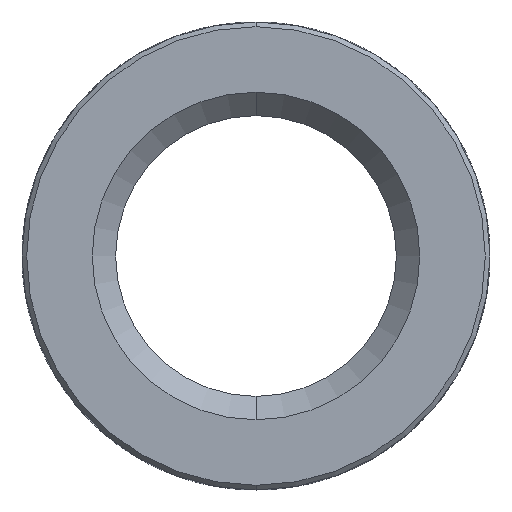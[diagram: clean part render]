
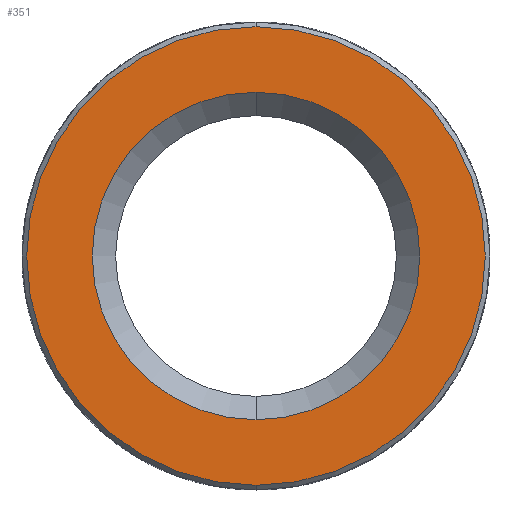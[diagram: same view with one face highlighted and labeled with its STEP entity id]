
A CAD part, front view. The second image highlights one B-rep face of the part: STEP entity #351.
In plain terms, the highlighted planar face has unit normal (0, -1, 0).
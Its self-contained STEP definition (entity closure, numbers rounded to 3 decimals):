
#54 = DIRECTION ( 'NONE',  ( 0., -1., 0. ) ) ;
#154 = CARTESIAN_POINT ( 'NONE',  ( 0., -9.6, 5. ) ) ;
#160 = DIRECTION ( 'NONE',  ( 0., 0., -1. ) ) ;
#351 = ADVANCED_FACE ( 'NONE', ( #2688, #2506 ), #1614, .T. ) ;
#414 = DIRECTION ( 'NONE',  ( 0., 0., -1. ) ) ;
#427 = CARTESIAN_POINT ( 'NONE',  ( 0., -9.6, 0. ) ) ;
#1007 = DIRECTION ( 'NONE',  ( 0., -1., 0. ) ) ;
#1020 = EDGE_CURVE ( 'NONE', #3169, #1818, #1592, .T. ) ;
#1039 = DIRECTION ( 'NONE',  ( 0., 0., -1. ) ) ;
#1064 = EDGE_LOOP ( 'NONE', ( #2608, #2655 ) ) ;
#1074 = EDGE_CURVE ( 'NONE', #3677, #2321, #3394, .T. ) ;
#1371 = EDGE_CURVE ( 'NONE', #1818, #3169, #3558, .T. ) ;
#1560 = ORIENTED_EDGE ( 'NONE', *, *, #2194, .T. ) ;
#1592 = CIRCLE ( 'NONE', #3110, 4.9 ) ;
#1614 = PLANE ( 'NONE',  #1991 ) ;
#1711 = CIRCLE ( 'NONE', #3256, 3.5 ) ;
#1749 = CARTESIAN_POINT ( 'NONE',  ( 0., -9.6, -3.5 ) ) ;
#1818 = VERTEX_POINT ( 'NONE', #1955 ) ;
#1955 = CARTESIAN_POINT ( 'NONE',  ( 0., -9.6, 4.9 ) ) ;
#1991 = AXIS2_PLACEMENT_3D ( 'NONE', #154, #2444, #1039 ) ;
#2096 = ORIENTED_EDGE ( 'NONE', *, *, #1074, .T. ) ;
#2145 = DIRECTION ( 'NONE',  ( 0., 0., -1. ) ) ;
#2194 = EDGE_CURVE ( 'NONE', #2321, #3677, #1711, .T. ) ;
#2234 = CARTESIAN_POINT ( 'NONE',  ( 0., -9.6, 0. ) ) ;
#2321 = VERTEX_POINT ( 'NONE', #3065 ) ;
#2362 = DIRECTION ( 'NONE',  ( 0., 0., -1. ) ) ;
#2444 = DIRECTION ( 'NONE',  ( 0., -1., 0. ) ) ;
#2506 = FACE_BOUND ( 'NONE', #3563, .T. ) ;
#2608 = ORIENTED_EDGE ( 'NONE', *, *, #1371, .T. ) ;
#2655 = ORIENTED_EDGE ( 'NONE', *, *, #1020, .T. ) ;
#2688 = FACE_OUTER_BOUND ( 'NONE', #1064, .T. ) ;
#2769 = DIRECTION ( 'NONE',  ( 0., 1., 0. ) ) ;
#3065 = CARTESIAN_POINT ( 'NONE',  ( 0., -9.6, 3.5 ) ) ;
#3110 = AXIS2_PLACEMENT_3D ( 'NONE', #427, #1007, #2145 ) ;
#3169 = VERTEX_POINT ( 'NONE', #3518 ) ;
#3217 = CARTESIAN_POINT ( 'NONE',  ( 0., -9.6, 0. ) ) ;
#3256 = AXIS2_PLACEMENT_3D ( 'NONE', #3573, #3333, #414 ) ;
#3281 = AXIS2_PLACEMENT_3D ( 'NONE', #3217, #54, #2362 ) ;
#3333 = DIRECTION ( 'NONE',  ( 0., 1., 0. ) ) ;
#3394 = CIRCLE ( 'NONE', #3697, 3.5 ) ;
#3518 = CARTESIAN_POINT ( 'NONE',  ( 0., -9.6, -4.9 ) ) ;
#3558 = CIRCLE ( 'NONE', #3281, 4.9 ) ;
#3563 = EDGE_LOOP ( 'NONE', ( #2096, #1560 ) ) ;
#3573 = CARTESIAN_POINT ( 'NONE',  ( 0., -9.6, 0. ) ) ;
#3677 = VERTEX_POINT ( 'NONE', #1749 ) ;
#3697 = AXIS2_PLACEMENT_3D ( 'NONE', #2234, #2769, #160 ) ;
